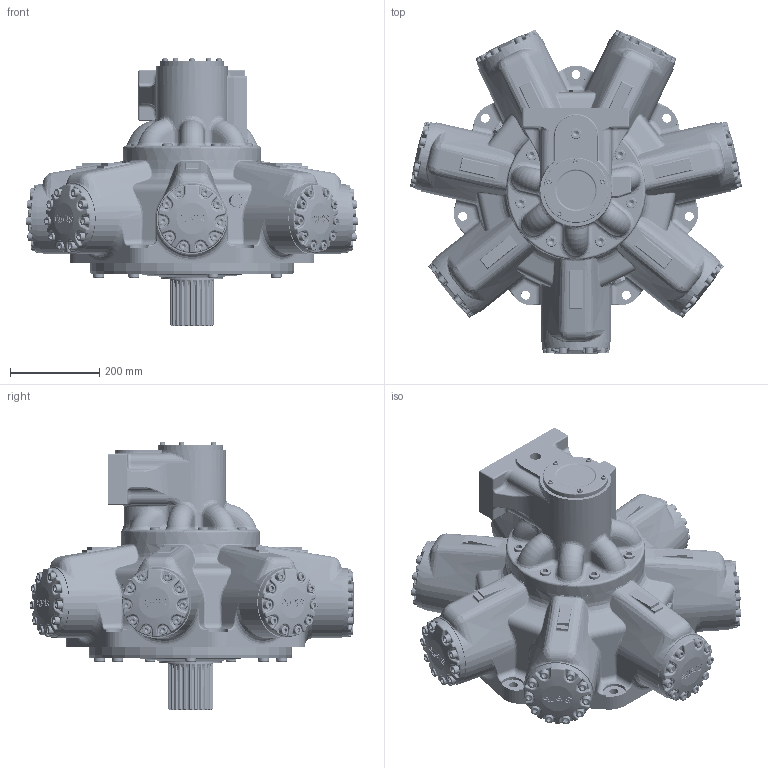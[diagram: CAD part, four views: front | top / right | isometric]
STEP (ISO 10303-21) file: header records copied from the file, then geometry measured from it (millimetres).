
FILE_DESCRIPTION(/* description */ (''),/* implementation_level */ '2;1');
FILE_NAME(/* name */ 'HMB325_Z_SFM4.stp',/* time_stamp */ '2025-09-04T10:38:47+01:00',/* author */ ('ccallanga'),/* organization */ (''),/* preprocessor_version */ 'ST-DEVELOPER v20',/* originating_system */ 'Autodesk Inventor 2024',/* authorisation */ '');
FILE_SCHEMA (('AUTOMOTIVE_DESIGN { 1 0 10303 214 3 1 1 }'));
Products named in the file (1): HMB325 Web Assembly_Simplify_1
Bounding box: 744.35 x 728.18 x 598.72 mm (x, y, z)
Volume: 71811158.4 mm3; surface area: 1708994.3 mm2
Topology: 1 solids, 1 shells, 6143 faces, 14946 edges, 8823 vertices
Faces by surface type: bspline 2334, plane 1615, cylinder 1329, torus 526, cone 174, sphere 165
Full cylindrical faces by diameter (mm): 2.2 x4, 11.913 x5, 12.7 x5, 13.835 x8, 14.351 x2, 16.51 x1, 17.323 x1, 19.05 x70, 20 x7, 20.637 x70, 23.825 x14, 25.4 x14, 26.92 x2, 38 x2, 38.1 x3, 99.2 x1, 101.575 x1, 106.68 x1, 139.7 x1, 146.05 x1, 311 x1, 311.15 x1, 457.11 x1
Entity records: 276687 total; most frequent: CARTESIAN_POINT 144720, ORIENTED_EDGE 29322, DIRECTION 20983, EDGE_CURVE 14661, VERTEX_POINT 8823, AXIS2_PLACEMENT_3D 8189, EDGE_LOOP 6460, STYLED_ITEM 6144
